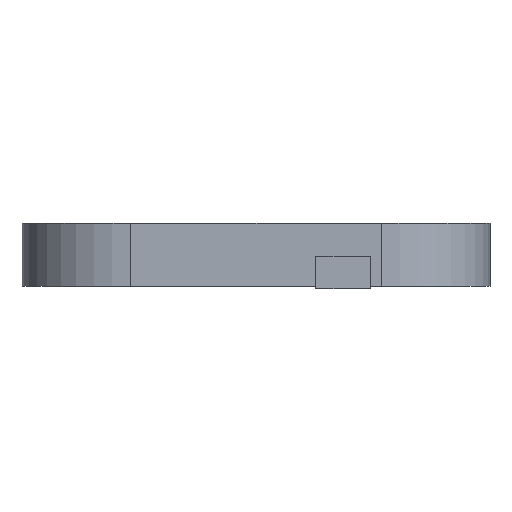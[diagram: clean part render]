
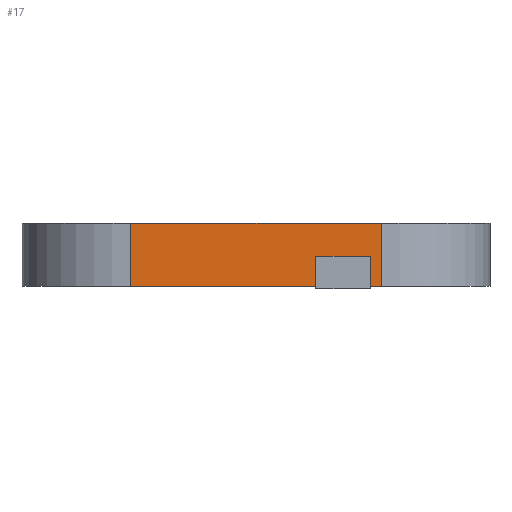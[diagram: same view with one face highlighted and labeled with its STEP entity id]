
A CAD part, left-side view. The second image highlights one B-rep face of the part: STEP entity #17.
In plain terms, the highlighted planar face has unit normal (-1, 0, 0).
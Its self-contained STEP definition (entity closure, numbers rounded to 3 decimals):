
#17 = ADVANCED_FACE('',(#18,#137),#32,.F.);
#18 = FACE_BOUND('',#19,.F.);
#19 = EDGE_LOOP('',(#20,#55,#83,#111));
#20 = ORIENTED_EDGE('',*,*,#21,.F.);
#21 = EDGE_CURVE('',#22,#24,#26,.T.);
#22 = VERTEX_POINT('',#23);
#23 = CARTESIAN_POINT('',(-24.,8.5,20.2));
#24 = VERTEX_POINT('',#25);
#25 = CARTESIAN_POINT('',(-24.,8.5,26.));
#26 = SURFACE_CURVE('',#27,(#31,#43),.PCURVE_S1.);
#27 = LINE('',#28,#29);
#28 = CARTESIAN_POINT('',(-24.,8.5,20.2));
#29 = VECTOR('',#30,1.);
#30 = DIRECTION('',(0.,0.,1.));
#31 = PCURVE('',#32,#37);
#32 = PLANE('',#33);
#33 = AXIS2_PLACEMENT_3D('',#34,#35,#36);
#34 = CARTESIAN_POINT('',(-24.,-1.5,20.2));
#35 = DIRECTION('',(1.,0.,0.));
#36 = DIRECTION('',(0.,0.,1.));
#37 = DEFINITIONAL_REPRESENTATION('',(#38),#42);
#38 = LINE('',#39,#40);
#39 = CARTESIAN_POINT('',(0.,-10.));
#40 = VECTOR('',#41,1.);
#41 = DIRECTION('',(1.,0.));
#42 = ( GEOMETRIC_REPRESENTATION_CONTEXT(2) 
PARAMETRIC_REPRESENTATION_CONTEXT() REPRESENTATION_CONTEXT('2D SPACE',''
  ) );
#43 = PCURVE('',#44,#49);
#44 = CYLINDRICAL_SURFACE('',#45,10.);
#45 = AXIS2_PLACEMENT_3D('',#46,#47,#48);
#46 = CARTESIAN_POINT('',(-14.,8.5,20.2));
#47 = DIRECTION('',(0.,0.,1.));
#48 = DIRECTION('',(-1.,-0.,0.));
#49 = DEFINITIONAL_REPRESENTATION('',(#50),#54);
#50 = LINE('',#51,#52);
#51 = CARTESIAN_POINT('',(0.,0.));
#52 = VECTOR('',#53,1.);
#53 = DIRECTION('',(0.,1.));
#54 = ( GEOMETRIC_REPRESENTATION_CONTEXT(2) 
PARAMETRIC_REPRESENTATION_CONTEXT() REPRESENTATION_CONTEXT('2D SPACE',''
  ) );
#55 = ORIENTED_EDGE('',*,*,#56,.T.);
#56 = EDGE_CURVE('',#22,#57,#59,.T.);
#57 = VERTEX_POINT('',#58);
#58 = CARTESIAN_POINT('',(-24.,31.5,20.2));
#59 = SURFACE_CURVE('',#60,(#64,#71),.PCURVE_S1.);
#60 = LINE('',#61,#62);
#61 = CARTESIAN_POINT('',(-24.,-1.5,20.2));
#62 = VECTOR('',#63,1.);
#63 = DIRECTION('',(0.,1.,0.));
#64 = PCURVE('',#32,#65);
#65 = DEFINITIONAL_REPRESENTATION('',(#66),#70);
#66 = LINE('',#67,#68);
#67 = CARTESIAN_POINT('',(0.,0.));
#68 = VECTOR('',#69,1.);
#69 = DIRECTION('',(0.,-1.));
#70 = ( GEOMETRIC_REPRESENTATION_CONTEXT(2) 
PARAMETRIC_REPRESENTATION_CONTEXT() REPRESENTATION_CONTEXT('2D SPACE',''
  ) );
#71 = PCURVE('',#72,#77);
#72 = PLANE('',#73);
#73 = AXIS2_PLACEMENT_3D('',#74,#75,#76);
#74 = CARTESIAN_POINT('',(-24.,-1.5,20.2));
#75 = DIRECTION('',(0.,0.,1.));
#76 = DIRECTION('',(1.,0.,-0.));
#77 = DEFINITIONAL_REPRESENTATION('',(#78),#82);
#78 = LINE('',#79,#80);
#79 = CARTESIAN_POINT('',(0.,0.));
#80 = VECTOR('',#81,1.);
#81 = DIRECTION('',(0.,1.));
#82 = ( GEOMETRIC_REPRESENTATION_CONTEXT(2) 
PARAMETRIC_REPRESENTATION_CONTEXT() REPRESENTATION_CONTEXT('2D SPACE',''
  ) );
#83 = ORIENTED_EDGE('',*,*,#84,.F.);
#84 = EDGE_CURVE('',#85,#57,#87,.T.);
#85 = VERTEX_POINT('',#86);
#86 = CARTESIAN_POINT('',(-24.,31.5,26.));
#87 = SURFACE_CURVE('',#88,(#92,#99),.PCURVE_S1.);
#88 = LINE('',#89,#90);
#89 = CARTESIAN_POINT('',(-24.,31.5,26.));
#90 = VECTOR('',#91,1.);
#91 = DIRECTION('',(0.,0.,-1.));
#92 = PCURVE('',#32,#93);
#93 = DEFINITIONAL_REPRESENTATION('',(#94),#98);
#94 = LINE('',#95,#96);
#95 = CARTESIAN_POINT('',(5.8,-33.));
#96 = VECTOR('',#97,1.);
#97 = DIRECTION('',(-1.,0.));
#98 = ( GEOMETRIC_REPRESENTATION_CONTEXT(2) 
PARAMETRIC_REPRESENTATION_CONTEXT() REPRESENTATION_CONTEXT('2D SPACE',''
  ) );
#99 = PCURVE('',#100,#105);
#100 = CYLINDRICAL_SURFACE('',#101,10.);
#101 = AXIS2_PLACEMENT_3D('',#102,#103,#104);
#102 = CARTESIAN_POINT('',(-14.,31.5,20.2));
#103 = DIRECTION('',(0.,0.,1.));
#104 = DIRECTION('',(-1.,-0.,0.));
#105 = DEFINITIONAL_REPRESENTATION('',(#106),#110);
#106 = LINE('',#107,#108);
#107 = CARTESIAN_POINT('',(6.283,5.8));
#108 = VECTOR('',#109,1.);
#109 = DIRECTION('',(-0.,-1.));
#110 = ( GEOMETRIC_REPRESENTATION_CONTEXT(2) 
PARAMETRIC_REPRESENTATION_CONTEXT() REPRESENTATION_CONTEXT('2D SPACE',''
  ) );
#111 = ORIENTED_EDGE('',*,*,#112,.F.);
#112 = EDGE_CURVE('',#24,#85,#113,.T.);
#113 = SURFACE_CURVE('',#114,(#118,#125),.PCURVE_S1.);
#114 = LINE('',#115,#116);
#115 = CARTESIAN_POINT('',(-24.,-1.5,26.));
#116 = VECTOR('',#117,1.);
#117 = DIRECTION('',(0.,1.,0.));
#118 = PCURVE('',#32,#119);
#119 = DEFINITIONAL_REPRESENTATION('',(#120),#124);
#120 = LINE('',#121,#122);
#121 = CARTESIAN_POINT('',(5.8,0.));
#122 = VECTOR('',#123,1.);
#123 = DIRECTION('',(0.,-1.));
#124 = ( GEOMETRIC_REPRESENTATION_CONTEXT(2) 
PARAMETRIC_REPRESENTATION_CONTEXT() REPRESENTATION_CONTEXT('2D SPACE',''
  ) );
#125 = PCURVE('',#126,#131);
#126 = PLANE('',#127);
#127 = AXIS2_PLACEMENT_3D('',#128,#129,#130);
#128 = CARTESIAN_POINT('',(-24.,-1.5,26.));
#129 = DIRECTION('',(0.,0.,1.));
#130 = DIRECTION('',(1.,0.,-0.));
#131 = DEFINITIONAL_REPRESENTATION('',(#132),#136);
#132 = LINE('',#133,#134);
#133 = CARTESIAN_POINT('',(0.,0.));
#134 = VECTOR('',#135,1.);
#135 = DIRECTION('',(0.,1.));
#136 = ( GEOMETRIC_REPRESENTATION_CONTEXT(2) 
PARAMETRIC_REPRESENTATION_CONTEXT() REPRESENTATION_CONTEXT('2D SPACE',''
  ) );
#137 = FACE_BOUND('',#138,.F.);
#138 = EDGE_LOOP('',(#139,#169,#197,#225));
#139 = ORIENTED_EDGE('',*,*,#140,.T.);
#140 = EDGE_CURVE('',#141,#143,#145,.T.);
#141 = VERTEX_POINT('',#142);
#142 = CARTESIAN_POINT('',(-24.,14.5,21.5));
#143 = VERTEX_POINT('',#144);
#144 = CARTESIAN_POINT('',(-24.,9.5,21.5));
#145 = SURFACE_CURVE('',#146,(#150,#157),.PCURVE_S1.);
#146 = LINE('',#147,#148);
#147 = CARTESIAN_POINT('',(-24.,4.,21.5));
#148 = VECTOR('',#149,1.);
#149 = DIRECTION('',(0.,-1.,0.));
#150 = PCURVE('',#32,#151);
#151 = DEFINITIONAL_REPRESENTATION('',(#152),#156);
#152 = LINE('',#153,#154);
#153 = CARTESIAN_POINT('',(1.3,-5.5));
#154 = VECTOR('',#155,1.);
#155 = DIRECTION('',(0.,1.));
#156 = ( GEOMETRIC_REPRESENTATION_CONTEXT(2) 
PARAMETRIC_REPRESENTATION_CONTEXT() REPRESENTATION_CONTEXT('2D SPACE',''
  ) );
#157 = PCURVE('',#158,#163);
#158 = PLANE('',#159);
#159 = AXIS2_PLACEMENT_3D('',#160,#161,#162);
#160 = CARTESIAN_POINT('',(-36.,9.5,21.5));
#161 = DIRECTION('',(0.,0.,1.));
#162 = DIRECTION('',(1.,0.,-0.));
#163 = DEFINITIONAL_REPRESENTATION('',(#164),#168);
#164 = LINE('',#165,#166);
#165 = CARTESIAN_POINT('',(12.,-5.5));
#166 = VECTOR('',#167,1.);
#167 = DIRECTION('',(0.,-1.));
#168 = ( GEOMETRIC_REPRESENTATION_CONTEXT(2) 
PARAMETRIC_REPRESENTATION_CONTEXT() REPRESENTATION_CONTEXT('2D SPACE',''
  ) );
#169 = ORIENTED_EDGE('',*,*,#170,.T.);
#170 = EDGE_CURVE('',#143,#171,#173,.T.);
#171 = VERTEX_POINT('',#172);
#172 = CARTESIAN_POINT('',(-24.,9.5,23.));
#173 = SURFACE_CURVE('',#174,(#178,#185),.PCURVE_S1.);
#174 = LINE('',#175,#176);
#175 = CARTESIAN_POINT('',(-24.,9.5,20.85));
#176 = VECTOR('',#177,1.);
#177 = DIRECTION('',(0.,0.,1.));
#178 = PCURVE('',#32,#179);
#179 = DEFINITIONAL_REPRESENTATION('',(#180),#184);
#180 = LINE('',#181,#182);
#181 = CARTESIAN_POINT('',(0.65,-11.));
#182 = VECTOR('',#183,1.);
#183 = DIRECTION('',(1.,0.));
#184 = ( GEOMETRIC_REPRESENTATION_CONTEXT(2) 
PARAMETRIC_REPRESENTATION_CONTEXT() REPRESENTATION_CONTEXT('2D SPACE',''
  ) );
#185 = PCURVE('',#186,#191);
#186 = PLANE('',#187);
#187 = AXIS2_PLACEMENT_3D('',#188,#189,#190);
#188 = CARTESIAN_POINT('',(-36.,9.5,21.5));
#189 = DIRECTION('',(0.,1.,0.));
#190 = DIRECTION('',(0.,-0.,1.));
#191 = DEFINITIONAL_REPRESENTATION('',(#192),#196);
#192 = LINE('',#193,#194);
#193 = CARTESIAN_POINT('',(-0.65,12.));
#194 = VECTOR('',#195,1.);
#195 = DIRECTION('',(1.,0.));
#196 = ( GEOMETRIC_REPRESENTATION_CONTEXT(2) 
PARAMETRIC_REPRESENTATION_CONTEXT() REPRESENTATION_CONTEXT('2D SPACE',''
  ) );
#197 = ORIENTED_EDGE('',*,*,#198,.F.);
#198 = EDGE_CURVE('',#199,#171,#201,.T.);
#199 = VERTEX_POINT('',#200);
#200 = CARTESIAN_POINT('',(-24.,14.5,23.));
#201 = SURFACE_CURVE('',#202,(#206,#213),.PCURVE_S1.);
#202 = LINE('',#203,#204);
#203 = CARTESIAN_POINT('',(-24.,4.,23.));
#204 = VECTOR('',#205,1.);
#205 = DIRECTION('',(0.,-1.,0.));
#206 = PCURVE('',#32,#207);
#207 = DEFINITIONAL_REPRESENTATION('',(#208),#212);
#208 = LINE('',#209,#210);
#209 = CARTESIAN_POINT('',(2.8,-5.5));
#210 = VECTOR('',#211,1.);
#211 = DIRECTION('',(0.,1.));
#212 = ( GEOMETRIC_REPRESENTATION_CONTEXT(2) 
PARAMETRIC_REPRESENTATION_CONTEXT() REPRESENTATION_CONTEXT('2D SPACE',''
  ) );
#213 = PCURVE('',#214,#219);
#214 = PLANE('',#215);
#215 = AXIS2_PLACEMENT_3D('',#216,#217,#218);
#216 = CARTESIAN_POINT('',(-36.,9.5,23.));
#217 = DIRECTION('',(0.,0.,1.));
#218 = DIRECTION('',(1.,0.,-0.));
#219 = DEFINITIONAL_REPRESENTATION('',(#220),#224);
#220 = LINE('',#221,#222);
#221 = CARTESIAN_POINT('',(12.,-5.5));
#222 = VECTOR('',#223,1.);
#223 = DIRECTION('',(0.,-1.));
#224 = ( GEOMETRIC_REPRESENTATION_CONTEXT(2) 
PARAMETRIC_REPRESENTATION_CONTEXT() REPRESENTATION_CONTEXT('2D SPACE',''
  ) );
#225 = ORIENTED_EDGE('',*,*,#226,.F.);
#226 = EDGE_CURVE('',#141,#199,#227,.T.);
#227 = SURFACE_CURVE('',#228,(#232,#239),.PCURVE_S1.);
#228 = LINE('',#229,#230);
#229 = CARTESIAN_POINT('',(-24.,14.5,20.85));
#230 = VECTOR('',#231,1.);
#231 = DIRECTION('',(0.,0.,1.));
#232 = PCURVE('',#32,#233);
#233 = DEFINITIONAL_REPRESENTATION('',(#234),#238);
#234 = LINE('',#235,#236);
#235 = CARTESIAN_POINT('',(0.65,-16.));
#236 = VECTOR('',#237,1.);
#237 = DIRECTION('',(1.,0.));
#238 = ( GEOMETRIC_REPRESENTATION_CONTEXT(2) 
PARAMETRIC_REPRESENTATION_CONTEXT() REPRESENTATION_CONTEXT('2D SPACE',''
  ) );
#239 = PCURVE('',#240,#245);
#240 = PLANE('',#241);
#241 = AXIS2_PLACEMENT_3D('',#242,#243,#244);
#242 = CARTESIAN_POINT('',(-36.,14.5,21.5));
#243 = DIRECTION('',(0.,1.,0.));
#244 = DIRECTION('',(0.,-0.,1.));
#245 = DEFINITIONAL_REPRESENTATION('',(#246),#250);
#246 = LINE('',#247,#248);
#247 = CARTESIAN_POINT('',(-0.65,12.));
#248 = VECTOR('',#249,1.);
#249 = DIRECTION('',(1.,0.));
#250 = ( GEOMETRIC_REPRESENTATION_CONTEXT(2) 
PARAMETRIC_REPRESENTATION_CONTEXT() REPRESENTATION_CONTEXT('2D SPACE',''
  ) );
